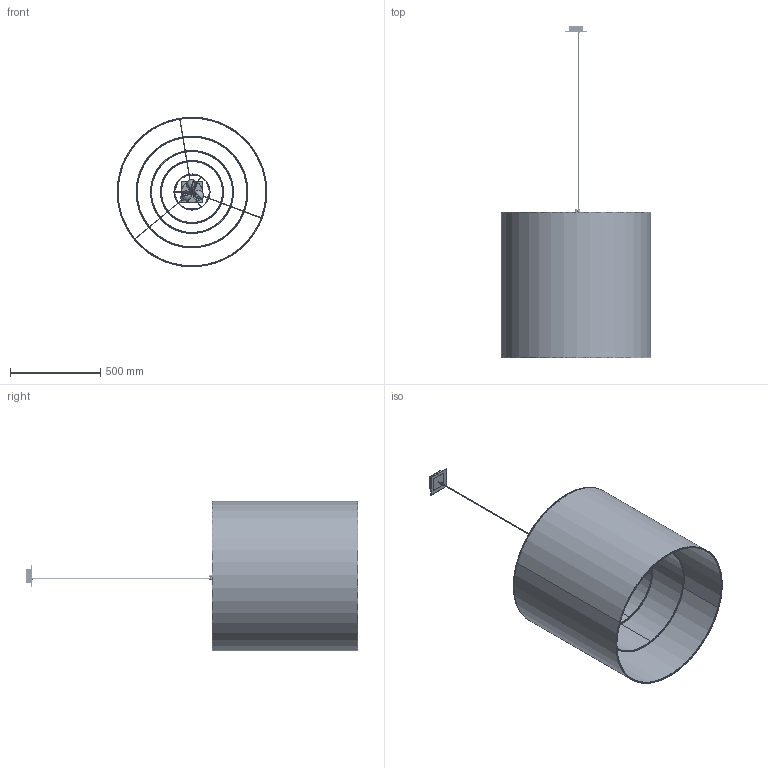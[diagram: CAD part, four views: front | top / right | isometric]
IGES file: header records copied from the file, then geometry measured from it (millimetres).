
Start section: SolidWorks IGES file using analytic representation for surfaces
Global section: file name: C:\SANTACOLE_PDM\Proyectos Catálogo\PROD-P13-045 -- MOARÉ\6_Técnico comercial\3D\Moare Suspension.IGS; native system: SolidWorks 2019; preprocessor: SolidWorks 2019; author: louis.ferraz; date: 200407.123847; units: millimetre
Bounding box: 829.96 x 1841.89 x 829.96 mm (x, y, z)
Surface area: 9481393.8 mm2 (no closed solid volume)
Topology: 0 solids, 0 shells, 1549 faces, 18025 edges, 18007 vertices
Faces by surface type: revolution 1039, bspline 510
